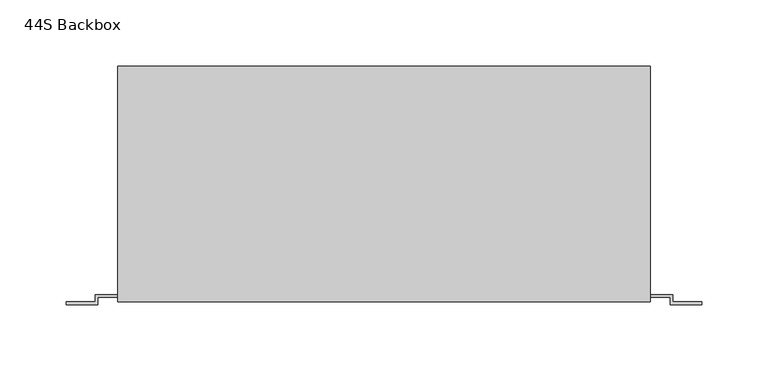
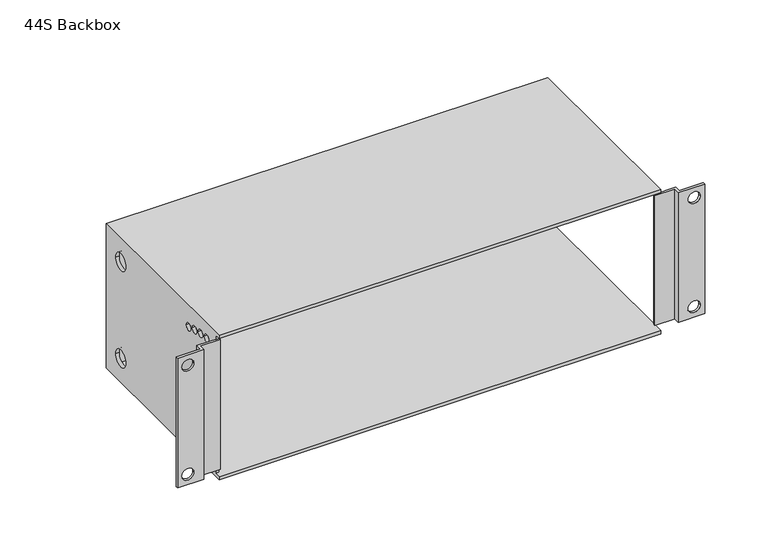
"""IFC4 building model written with IfcOpenShell, lengths in millimetres: proxy geometry, d&b xS-Series 44S Backbox : 44S Backbox."""

from ifc_helpers import new_model, si_unit, frame, origin, place, context, project, spatial, polyline, circle_curve, source, transform, mapped, element, save
from ifc_brep_helpers import plane_surface, revolved_surface, advanced_brep


def proxy_44s_backbox_51589d41(model_context):
    return source(origin(), model_context, "Body", "AdvancedBrep", [
        advanced_brep(
        [(201.0, -90.5, 69.5), (201.0, -90.5, 66.5), (201.0, 84.5, 66.5), (201.0, 84.5, -66.5), (201.0, -90.5, -66.5), (201.0, -90.5, -69.5), (201.0, 87.5, -69.5), (201.0, 87.5, 69.5), (-201.0, -90.5, 69.5), (-201.0, 87.5, 69.5), (-201.0, 87.5, -69.5), (-201.0, -90.5, -69.5), (-201.0, -90.5, -66.5), (-201.0, -85.0, -66.5), (-201.0, -85.0, 66.5), (-201.0, -90.5, 66.5), (-201.0, 56.5, 46.5), (-201.0, 72.5, 46.5), (-201.0, 56.5, -46.5), (-201.0, 72.5, -46.5), (-201.0, -46.0357641, 48.8058809), (-201.0, -39.0357641, 48.8058809), (-201.0, -55.271086, 51.7177667), (-201.0, -48.271086, 51.7177667), (-201.0, -64.7250523, 53.8136606), (-201.0, -57.7250523, 53.8136606), (-201.0, -74.3257126, 55.0776115), (-201.0, -67.3257126, 55.0776115), (-201.0, -84.0, -55.5), (-201.0, -77.0, -55.5), (-201.0, -74.3257126, -55.0776115), (-201.0, -67.3257126, -55.0776115), (-201.0, -64.7250523, -53.8136606), (-201.0, -57.7250523, -53.8136606), (-201.0, -55.271086, -51.7177667), (-201.0, -48.271086, -51.7177667), (-201.0, -46.0357641, -48.8058809), (-201.0, -39.0357641, -48.8058809), (-198.0, -85.0, 66.5), (-198.0, 84.5, 66.5), (-198.0, 84.5, -66.5), (-198.0, -85.0, -66.5), (-198.0, 56.5, 46.5), (-198.0, 72.5, 46.5), (-198.0, 56.5, -46.5), (-198.0, 72.5, -46.5), (-198.0, -46.0357641, 48.8058809), (-198.0, -39.0357641, 48.8058809), (-198.0, -55.271086, 51.7177667), (-198.0, -48.271086, 51.7177667), (-198.0, -64.7250523, 53.8136606), (-198.0, -57.7250523, 53.8136606), (-198.0, -74.3257126, 55.0776115), (-198.0, -67.3257126, 55.0776115), (-198.0, -84.0, -55.5), (-198.0, -77.0, -55.5), (-198.0, -74.3257126, -55.0776115), (-198.0, -67.3257126, -55.0776115), (-198.0, -64.7250523, -53.8136606), (-198.0, -57.7250523, -53.8136606), (-198.0, -55.271086, -51.7177667), (-198.0, -48.271086, -51.7177667), (-198.0, -46.0357641, -48.8058809), (-198.0, -39.0357641, -48.8058809)],
        [
            (0, 1),
            (1, 2),
            (2, 3),
            (3, 4),
            (4, 5),
            (5, 6),
            (6, 7),
            (7, 0),
            (8, 9),
            (9, 10),
            (10, 11),
            (11, 12),
            (12, 13),
            (13, 14),
            (14, 15),
            (15, 8),
            (16, 17, circle_curve(frame((-201.0, 64.5, 46.5), z_axis=(1.0, 0.0, 0.0), x_axis=(0.0, 1.0, 0.0)), 8.0)),
            (17, 16, circle_curve(frame((-201.0, 64.5, 46.5), z_axis=(1.0, 0.0, 0.0), x_axis=(0.0, 1.0, 0.0)), 8.0)),
            (18, 19, circle_curve(frame((-201.0, 64.5, -46.5), z_axis=(1.0, 0.0, 0.0), x_axis=(0.0, 1.0, 0.0)), 8.0)),
            (19, 18, circle_curve(frame((-201.0, 64.5, -46.5), z_axis=(1.0, 0.0, 0.0), x_axis=(0.0, 1.0, 0.0)), 8.0)),
            (20, 21, circle_curve(frame((-201.0, -42.5357641, 48.8058809), z_axis=(1.0, 0.0, 0.0), x_axis=(0.0, 1.0, 0.0)), 3.5)),
            (21, 20, circle_curve(frame((-201.0, -42.5357641, 48.8058809), z_axis=(1.0, 0.0, 0.0), x_axis=(0.0, 1.0, 0.0)), 3.5)),
            (22, 23, circle_curve(frame((-201.0, -51.771086, 51.7177667), z_axis=(1.0, 0.0, 0.0), x_axis=(0.0, 1.0, 0.0)), 3.5)),
            (23, 22, circle_curve(frame((-201.0, -51.771086, 51.7177667), z_axis=(1.0, 0.0, 0.0), x_axis=(0.0, 1.0, 0.0)), 3.5)),
            (24, 25, circle_curve(frame((-201.0, -61.2250523, 53.8136606), z_axis=(1.0, 0.0, 0.0), x_axis=(0.0, 1.0, 0.0)), 3.5)),
            (25, 24, circle_curve(frame((-201.0, -61.2250523, 53.8136606), z_axis=(1.0, 0.0, 0.0), x_axis=(0.0, 1.0, 0.0)), 3.5)),
            (26, 27, circle_curve(frame((-201.0, -70.8257126, 55.0776115), z_axis=(1.0, 0.0, 0.0), x_axis=(0.0, 1.0, 0.0)), 3.5)),
            (27, 26, circle_curve(frame((-201.0, -70.8257126, 55.0776115), z_axis=(1.0, 0.0, 0.0), x_axis=(0.0, 1.0, 0.0)), 3.5)),
            (28, 29, circle_curve(frame((-201.0, -80.5, -55.5), z_axis=(1.0, 0.0, 0.0), x_axis=(0.0, 1.0, 0.0)), 3.5)),
            (29, 28, circle_curve(frame((-201.0, -80.5, -55.5), z_axis=(1.0, 0.0, 0.0), x_axis=(0.0, 1.0, 0.0)), 3.5)),
            (30, 31, circle_curve(frame((-201.0, -70.8257126, -55.0776115), z_axis=(1.0, 0.0, 0.0), x_axis=(0.0, 1.0, 0.0)), 3.5)),
            (31, 30, circle_curve(frame((-201.0, -70.8257126, -55.0776115), z_axis=(1.0, 0.0, 0.0), x_axis=(0.0, 1.0, 0.0)), 3.5)),
            (32, 33, circle_curve(frame((-201.0, -61.2250523, -53.8136606), z_axis=(1.0, 0.0, 0.0), x_axis=(0.0, 1.0, 0.0)), 3.5)),
            (33, 32, circle_curve(frame((-201.0, -61.2250523, -53.8136606), z_axis=(1.0, 0.0, 0.0), x_axis=(0.0, 1.0, 0.0)), 3.5)),
            (34, 35, circle_curve(frame((-201.0, -51.771086, -51.7177667), z_axis=(1.0, 0.0, 0.0), x_axis=(0.0, 1.0, 0.0)), 3.5)),
            (35, 34, circle_curve(frame((-201.0, -51.771086, -51.7177667), z_axis=(1.0, 0.0, 0.0), x_axis=(0.0, 1.0, 0.0)), 3.5)),
            (36, 37, circle_curve(frame((-201.0, -42.5357641, -48.8058809), z_axis=(1.0, 0.0, 0.0), x_axis=(0.0, 1.0, 0.0)), 3.5)),
            (37, 36, circle_curve(frame((-201.0, -42.5357641, -48.8058809), z_axis=(1.0, 0.0, 0.0), x_axis=(0.0, 1.0, 0.0)), 3.5)),
            (0, 8),
            (15, 1),
            (14, 38),
            (38, 39),
            (39, 2),
            (39, 40),
            (40, 3),
            (40, 41),
            (41, 13),
            (12, 4),
            (11, 5),
            (10, 6),
            (9, 7),
            (38, 41),
            (42, 43, circle_curve(frame((-198.0, 64.5, 46.5), z_axis=(-1.0, 0.0, 0.0), x_axis=(0.0, 1.0, 0.0)), 8.0)),
            (43, 42, circle_curve(frame((-198.0, 64.5, 46.5), z_axis=(-1.0, 0.0, 0.0), x_axis=(0.0, 1.0, 0.0)), 8.0)),
            (44, 45, circle_curve(frame((-198.0, 64.5, -46.5), z_axis=(-1.0, 0.0, 0.0), x_axis=(0.0, 1.0, 0.0)), 8.0)),
            (45, 44, circle_curve(frame((-198.0, 64.5, -46.5), z_axis=(-1.0, 0.0, 0.0), x_axis=(0.0, 1.0, 0.0)), 8.0)),
            (46, 47, circle_curve(frame((-198.0, -42.5357641, 48.8058809), z_axis=(-1.0, 0.0, 0.0), x_axis=(0.0, 1.0, 0.0)), 3.5)),
            (47, 46, circle_curve(frame((-198.0, -42.5357641, 48.8058809), z_axis=(-1.0, 0.0, 0.0), x_axis=(0.0, 1.0, 0.0)), 3.5)),
            (48, 49, circle_curve(frame((-198.0, -51.771086, 51.7177667), z_axis=(-1.0, 0.0, 0.0), x_axis=(0.0, 1.0, 0.0)), 3.5)),
            (49, 48, circle_curve(frame((-198.0, -51.771086, 51.7177667), z_axis=(-1.0, 0.0, 0.0), x_axis=(0.0, 1.0, 0.0)), 3.5)),
            (50, 51, circle_curve(frame((-198.0, -61.2250523, 53.8136606), z_axis=(-1.0, 0.0, 0.0), x_axis=(0.0, 1.0, 0.0)), 3.5)),
            (51, 50, circle_curve(frame((-198.0, -61.2250523, 53.8136606), z_axis=(-1.0, 0.0, 0.0), x_axis=(0.0, 1.0, 0.0)), 3.5)),
            (52, 53, circle_curve(frame((-198.0, -70.8257126, 55.0776115), z_axis=(-1.0, 0.0, 0.0), x_axis=(0.0, 1.0, 0.0)), 3.5)),
            (53, 52, circle_curve(frame((-198.0, -70.8257126, 55.0776115), z_axis=(-1.0, 0.0, 0.0), x_axis=(0.0, 1.0, 0.0)), 3.5)),
            (54, 55, circle_curve(frame((-198.0, -80.5, -55.5), z_axis=(-1.0, 0.0, 0.0), x_axis=(0.0, 1.0, 0.0)), 3.5)),
            (55, 54, circle_curve(frame((-198.0, -80.5, -55.5), z_axis=(-1.0, 0.0, 0.0), x_axis=(0.0, 1.0, 0.0)), 3.5)),
            (56, 57, circle_curve(frame((-198.0, -70.8257126, -55.0776115), z_axis=(-1.0, 0.0, 0.0), x_axis=(0.0, 1.0, 0.0)), 3.5)),
            (57, 56, circle_curve(frame((-198.0, -70.8257126, -55.0776115), z_axis=(-1.0, 0.0, 0.0), x_axis=(0.0, 1.0, 0.0)), 3.5)),
            (58, 59, circle_curve(frame((-198.0, -61.2250523, -53.8136606), z_axis=(-1.0, 0.0, 0.0), x_axis=(0.0, 1.0, 0.0)), 3.5)),
            (59, 58, circle_curve(frame((-198.0, -61.2250523, -53.8136606), z_axis=(-1.0, 0.0, 0.0), x_axis=(0.0, 1.0, 0.0)), 3.5)),
            (60, 61, circle_curve(frame((-198.0, -51.771086, -51.7177667), z_axis=(-1.0, 0.0, 0.0), x_axis=(0.0, 1.0, 0.0)), 3.5)),
            (61, 60, circle_curve(frame((-198.0, -51.771086, -51.7177667), z_axis=(-1.0, 0.0, 0.0), x_axis=(0.0, 1.0, 0.0)), 3.5)),
            (62, 63, circle_curve(frame((-198.0, -42.5357641, -48.8058809), z_axis=(-1.0, 0.0, 0.0), x_axis=(0.0, 1.0, 0.0)), 3.5)),
            (63, 62, circle_curve(frame((-198.0, -42.5357641, -48.8058809), z_axis=(-1.0, 0.0, 0.0), x_axis=(0.0, 1.0, 0.0)), 3.5)),
            (42, 16),
            (17, 43),
            (44, 18),
            (19, 45),
            (46, 20),
            (21, 47),
            (48, 22),
            (23, 49),
            (50, 24),
            (25, 51),
            (52, 26),
            (27, 53),
            (54, 28),
            (29, 55),
            (56, 30),
            (31, 57),
            (58, 32),
            (33, 59),
            (60, 34),
            (35, 61),
            (62, 36),
            (37, 63),
        ],
        [
            plane_surface(frame((201.0, -90.5, -374.3), z_axis=(1.0, 0.0, 0.0), x_axis=(0.0, 0.0, -1.0))),
            plane_surface(frame((-201.0, -90.5, -374.3), z_axis=(-1.0, 0.0, 0.0), x_axis=(0.0, 0.0, 1.0))),
            plane_surface(frame((201.0, -90.5, 69.5), z_axis=(0.0, -1.0, 0.0), x_axis=(-1.0, 0.0, 0.0))),
            plane_surface(frame((201.0, -90.5, 66.5), z_axis=(0.0, 0.0, -1.0), x_axis=(-1.0, 0.0, 0.0))),
            plane_surface(frame((201.0, 84.5, 66.5), z_axis=(0.0, -1.0, 0.0), x_axis=(-1.0, 0.0, 0.0))),
            plane_surface(frame((201.0, 84.5, -66.5), z_axis=(0.0, 0.0, 1.0), x_axis=(-1.0, 0.0, 0.0))),
            plane_surface(frame((201.0, -90.5, -66.5), z_axis=(0.0, -1.0, 0.0), x_axis=(-1.0, 0.0, 0.0))),
            plane_surface(frame((201.0, -90.5, -69.5), z_axis=(0.0, 0.0, -1.0), x_axis=(-1.0, 0.0, 0.0))),
            plane_surface(frame((201.0, 87.5, -69.5), z_axis=(0.0, 1.0, 0.0), x_axis=(-1.0, 0.0, 0.0))),
            plane_surface(frame((201.0, 87.5, 69.5), z_axis=(0.0, 0.0, 1.0), x_axis=(-1.0, 0.0, 0.0))),
            plane_surface(frame((-198.0, -85.0, 69.5), z_axis=(1.0, 0.0, 0.0), x_axis=(0.0, 0.0, -1.0))),
            plane_surface(frame((-198.0, -85.0, 66.5), z_axis=(0.0, -1.0, 0.0), x_axis=(-1.0, 0.0, 0.0))),
            revolved_surface(polyline([(-201.0, 72.5, 46.5), (-198.0, 72.5, 46.5)]), (-201.0, 64.5, 46.5), (-1.0, 0.0, 0.0)),
            revolved_surface(polyline([(-201.0, 72.5, -46.5), (-198.0, 72.5, -46.5)]), (-201.0, 64.5, -46.5), (-1.0, 0.0, 0.0)),
            revolved_surface(polyline([(-201.0, -39.0357641, 48.8058809), (-198.0, -39.0357641, 48.8058809)]), (-201.0, -42.5357641, 48.8058809), (-1.0, 0.0, 0.0)),
            revolved_surface(polyline([(-201.0, -48.271086, 51.7177667), (-198.0, -48.271086, 51.7177667)]), (-201.0, -51.771086, 51.7177667), (-1.0, 0.0, 0.0)),
            revolved_surface(polyline([(-201.0, -57.7250523, 53.8136606), (-198.0, -57.7250523, 53.8136606)]), (-201.0, -61.2250523, 53.8136606), (-1.0, 0.0, 0.0)),
            revolved_surface(polyline([(-201.0, -67.3257126, 55.0776115), (-198.0, -67.3257126, 55.0776115)]), (-201.0, -70.8257126, 55.0776115), (-1.0, 0.0, 0.0)),
            revolved_surface(polyline([(-201.0, -77.0, -55.5), (-198.0, -77.0, -55.5)]), (-201.0, -80.5, -55.5), (-1.0, 0.0, 0.0)),
            revolved_surface(polyline([(-201.0, -67.3257126, -55.0776115), (-198.0, -67.3257126, -55.0776115)]), (-201.0, -70.8257126, -55.0776115), (-1.0, 0.0, 0.0)),
            revolved_surface(polyline([(-201.0, -57.7250523, -53.8136606), (-198.0, -57.7250523, -53.8136606)]), (-201.0, -61.2250523, -53.8136606), (-1.0, 0.0, 0.0)),
            revolved_surface(polyline([(-201.0, -48.271086, -51.7177667), (-198.0, -48.271086, -51.7177667)]), (-201.0, -51.771086, -51.7177667), (-1.0, 0.0, 0.0)),
            revolved_surface(polyline([(-201.0, -39.0357641, -48.8058809), (-198.0, -39.0357641, -48.8058809)]), (-201.0, -42.5357641, -48.8058809), (-1.0, 0.0, 0.0)),
        ],
        [
            (0, [[1, 2, 3, 4, 5, 6, 7, 8]]),
            (1, [[9, 10, 11, 12, 13, 14, 15, 16], [17, 18], [19, 20], [21, 22], [23, 24], [25, 26], [27, 28], [29, 30], [31, 32], [33, 34], [35, 36], [37, 38]]),
            (2, [[-1, 39, -16, 40]]),
            (3, [[-2, -40, -15, 41, 42, 43]]),
            (4, [[-3, -43, 44, 45]]),
            (5, [[-4, -45, 46, 47, -13, 48]]),
            (6, [[-5, -48, -12, 49]]),
            (7, [[-6, -49, -11, 50]]),
            (8, [[-7, -50, -10, 51]]),
            (9, [[-8, -51, -9, -39]]),
            (10, [[52, -46, -44, -42], [53, 54], [55, 56], [57, 58], [59, 60], [61, 62], [63, 64], [65, 66], [67, 68], [69, 70], [71, 72], [73, 74]]),
            (11, [[-52, -41, -14, -47]]),
            (12, [[-53, 75, -18, 76]]),
            (12, [[-54, -76, -17, -75]]),
            (13, [[-55, 77, -20, 78]]),
            (13, [[-56, -78, -19, -77]]),
            (14, [[-57, 79, -22, 80]]),
            (14, [[-58, -80, -21, -79]]),
            (15, [[-59, 81, -24, 82]]),
            (15, [[-60, -82, -23, -81]]),
            (16, [[-61, 83, -26, 84]]),
            (16, [[-62, -84, -25, -83]]),
            (17, [[-63, 85, -28, 86]]),
            (17, [[-64, -86, -27, -85]]),
            (18, [[-65, 87, -30, 88]]),
            (18, [[-66, -88, -29, -87]]),
            (19, [[-67, 89, -32, 90]]),
            (19, [[-68, -90, -31, -89]]),
            (20, [[-69, 91, -34, 92]]),
            (20, [[-70, -92, -33, -91]]),
            (21, [[-71, 93, -36, 94]]),
            (21, [[-72, -94, -35, -93]]),
            (22, [[-73, 95, -38, 96]]),
            (22, [[-74, -96, -37, -95]]),
        ],
    ),
        advanced_brep(
        [(216.0, -92.5, 62.5), (240.0, -92.5, 62.5), (240.0, -90.5, 62.5), (218.0, -90.5, 62.5), (218.0, -85.0, 62.5), (198.0, -85.0, 62.5), (198.0, -87.0, 62.5), (216.0, -87.0, 62.5), (216.0, -92.5, -62.5), (216.0, -87.0, -62.5), (198.0, -87.0, -62.5), (198.0, -85.0, -62.5), (218.0, -85.0, -62.5), (218.0, -90.5, -62.5), (240.0, -90.5, -62.5), (240.0, -92.5, -62.5), (236.0, -90.5, 52.5), (225.0, -90.5, 52.5), (236.0, -90.5, -52.5), (225.0, -90.5, -52.5), (225.0, -92.5, 52.5), (236.0, -92.5, 52.5), (225.0, -92.5, -52.5), (236.0, -92.5, -52.5)],
        [
            (0, 1),
            (1, 2),
            (2, 3),
            (3, 4),
            (4, 5),
            (5, 6),
            (6, 7),
            (7, 0),
            (8, 9),
            (9, 10),
            (10, 11),
            (11, 12),
            (12, 13),
            (13, 14),
            (14, 15),
            (15, 8),
            (7, 9),
            (8, 0),
            (6, 10),
            (5, 11),
            (4, 12),
            (3, 13),
            (2, 14),
            (16, 17, circle_curve(frame((230.5, -90.5, 52.5), z_axis=(0.0, -1.0, 0.0), x_axis=(-1.0, 0.0, 0.0)), 5.5)),
            (17, 16, circle_curve(frame((230.5, -90.5, 52.5), z_axis=(0.0, -1.0, 0.0), x_axis=(-1.0, 0.0, 0.0)), 5.5)),
            (18, 19, circle_curve(frame((230.5, -90.5, -52.5), z_axis=(0.0, -1.0, 0.0), x_axis=(-1.0, 0.0, 0.0)), 5.5)),
            (19, 18, circle_curve(frame((230.5, -90.5, -52.5), z_axis=(0.0, -1.0, 0.0), x_axis=(-1.0, 0.0, 0.0)), 5.5)),
            (1, 15),
            (20, 21, circle_curve(frame((230.5, -92.5, 52.5), z_axis=(0.0, 1.0, 0.0), x_axis=(-1.0, 0.0, 0.0)), 5.5)),
            (21, 20, circle_curve(frame((230.5, -92.5, 52.5), z_axis=(0.0, 1.0, 0.0), x_axis=(-1.0, 0.0, 0.0)), 5.5)),
            (22, 23, circle_curve(frame((230.5, -92.5, -52.5), z_axis=(0.0, 1.0, 0.0), x_axis=(-1.0, 0.0, 0.0)), 5.5)),
            (23, 22, circle_curve(frame((230.5, -92.5, -52.5), z_axis=(0.0, 1.0, 0.0), x_axis=(-1.0, 0.0, 0.0)), 5.5)),
            (20, 17),
            (16, 21),
            (22, 19),
            (18, 23),
        ],
        [
            plane_surface(frame((240.0, -92.5, 62.5), z_axis=(0.0, 0.0, 1.0), x_axis=(1.0, 0.0, 0.0))),
            plane_surface(frame((240.0, -92.5, -62.5), z_axis=(0.0, 0.0, -1.0), x_axis=(-1.0, 0.0, 0.0))),
            plane_surface(frame((216.0, -87.0, 62.5), z_axis=(-1.0, 0.0, 0.0), x_axis=(0.0, 0.0, -1.0))),
            plane_surface(frame((198.0, -87.0, 62.5), z_axis=(0.0, -1.0, 0.0), x_axis=(0.0, 0.0, -1.0))),
            plane_surface(frame((198.0, -85.0, 62.5), z_axis=(-1.0, 0.0, 0.0), x_axis=(0.0, 0.0, -1.0))),
            plane_surface(frame((218.0, -85.0, 62.5), z_axis=(0.0, 1.0, 0.0), x_axis=(0.0, 0.0, -1.0))),
            plane_surface(frame((218.0, -90.5, 62.5), z_axis=(1.0, 0.0, 0.0), x_axis=(0.0, 0.0, -1.0))),
            plane_surface(frame((240.0, -90.5, 62.5), z_axis=(0.0, 1.0, 0.0), x_axis=(0.0, 0.0, -1.0))),
            plane_surface(frame((240.0, -92.5, 62.5), z_axis=(1.0, 0.0, 0.0), x_axis=(0.0, 0.0, -1.0))),
            plane_surface(frame((216.0, -92.5, 62.5), z_axis=(0.0, -1.0, 0.0), x_axis=(0.0, 0.0, -1.0))),
            revolved_surface(polyline([(225.0, -92.5, 52.5), (225.0, -90.5, 52.5)]), (230.5, -90.5, 52.5), (0.0, -1.0, 0.0)),
            revolved_surface(polyline([(225.0, -92.5, -52.5), (225.0, -90.5, -52.5)]), (230.5, -90.5, -52.5), (0.0, -1.0, 0.0)),
        ],
        [
            (0, [[1, 2, 3, 4, 5, 6, 7, 8]]),
            (1, [[9, 10, 11, 12, 13, 14, 15, 16]]),
            (2, [[-8, 17, -9, 18]]),
            (3, [[-7, 19, -10, -17]]),
            (4, [[-6, 20, -11, -19]]),
            (5, [[-5, 21, -12, -20]]),
            (6, [[-4, 22, -13, -21]]),
            (7, [[-3, 23, -14, -22], [24, 25], [26, 27]]),
            (8, [[-2, 28, -15, -23]]),
            (9, [[-1, -18, -16, -28], [29, 30], [31, 32]]),
            (10, [[33, -24, 34, -29]]),
            (10, [[-33, -30, -34, -25]]),
            (11, [[35, -26, 36, -31]]),
            (11, [[-35, -32, -36, -27]]),
        ],
    ),
        advanced_brep(
        [(-216.0, -92.5, 62.5), (-216.0, -87.0, 62.5), (-198.0, -87.0, 62.5), (-198.0, -85.0, 62.5), (-218.0, -85.0, 62.5), (-218.0, -90.5, 62.5), (-240.0, -90.5, 62.5), (-240.0, -92.5, 62.5), (-216.0, -92.5, -62.5), (-240.0, -92.5, -62.5), (-240.0, -90.5, -62.5), (-218.0, -90.5, -62.5), (-218.0, -85.0, -62.5), (-198.0, -85.0, -62.5), (-198.0, -87.0, -62.5), (-216.0, -87.0, -62.5), (-236.0, -90.5, 52.5), (-225.0, -90.5, 52.5), (-236.0, -90.5, -52.5), (-225.0, -90.5, -52.5), (-225.0, -92.5, 52.5), (-236.0, -92.5, 52.5), (-225.0, -92.5, -52.5), (-236.0, -92.5, -52.5)],
        [
            (0, 1),
            (1, 2),
            (2, 3),
            (3, 4),
            (4, 5),
            (5, 6),
            (6, 7),
            (7, 0),
            (8, 9),
            (9, 10),
            (10, 11),
            (11, 12),
            (12, 13),
            (13, 14),
            (14, 15),
            (15, 8),
            (0, 8),
            (15, 1),
            (14, 2),
            (13, 3),
            (12, 4),
            (11, 5),
            (10, 6),
            (16, 17, circle_curve(frame((-230.5, -90.5, 52.5), z_axis=(0.0, -1.0, 0.0), x_axis=(1.0, 0.0, 0.0)), 5.5)),
            (17, 16, circle_curve(frame((-230.5, -90.5, 52.5), z_axis=(0.0, -1.0, 0.0), x_axis=(1.0, 0.0, 0.0)), 5.5)),
            (18, 19, circle_curve(frame((-230.5, -90.5, -52.5), z_axis=(0.0, -1.0, 0.0), x_axis=(1.0, 0.0, 0.0)), 5.5)),
            (19, 18, circle_curve(frame((-230.5, -90.5, -52.5), z_axis=(0.0, -1.0, 0.0), x_axis=(1.0, 0.0, 0.0)), 5.5)),
            (9, 7),
            (20, 21, circle_curve(frame((-230.5, -92.5, 52.5), z_axis=(0.0, 1.0, 0.0), x_axis=(1.0, 0.0, 0.0)), 5.5)),
            (21, 20, circle_curve(frame((-230.5, -92.5, 52.5), z_axis=(0.0, 1.0, 0.0), x_axis=(1.0, 0.0, 0.0)), 5.5)),
            (22, 23, circle_curve(frame((-230.5, -92.5, -52.5), z_axis=(0.0, 1.0, 0.0), x_axis=(1.0, 0.0, 0.0)), 5.5)),
            (23, 22, circle_curve(frame((-230.5, -92.5, -52.5), z_axis=(0.0, 1.0, 0.0), x_axis=(1.0, 0.0, 0.0)), 5.5)),
            (20, 17),
            (16, 21),
            (22, 19),
            (18, 23),
        ],
        [
            plane_surface(frame((-216.0, -90.0, 62.5), z_axis=(0.0, 0.0, 1.0), x_axis=(0.0, 1.0, 0.0))),
            plane_surface(frame((-216.0, -90.0, -62.5), z_axis=(0.0, 0.0, -1.0), x_axis=(0.0, -1.0, 0.0))),
            plane_surface(frame((-216.0, -92.5, 62.5), z_axis=(1.0, 0.0, 0.0), x_axis=(0.0, 0.0, -1.0))),
            plane_surface(frame((-216.0, -87.0, 62.5), z_axis=(0.0, -1.0, 0.0), x_axis=(0.0, 0.0, -1.0))),
            plane_surface(frame((-198.0, -87.0, 62.5), z_axis=(1.0, 0.0, 0.0), x_axis=(0.0, 0.0, -1.0))),
            plane_surface(frame((-198.0, -85.0, 62.5), z_axis=(0.0, 1.0, 0.0), x_axis=(0.0, 0.0, -1.0))),
            plane_surface(frame((-218.0, -85.0, 62.5), z_axis=(-1.0, 0.0, 0.0), x_axis=(0.0, 0.0, -1.0))),
            plane_surface(frame((-218.0, -90.5, 62.5), z_axis=(0.0, 1.0, 0.0), x_axis=(0.0, 0.0, -1.0))),
            plane_surface(frame((-240.0, -90.5, 62.5), z_axis=(-1.0, 0.0, 0.0), x_axis=(0.0, 0.0, -1.0))),
            plane_surface(frame((-240.0, -92.5, 62.5), z_axis=(0.0, -1.0, 0.0), x_axis=(0.0, 0.0, -1.0))),
            revolved_surface(polyline([(-225.0, -92.5, 52.5), (-225.0, -90.5, 52.5)]), (-230.5, -90.5, 52.5), (0.0, -1.0, 0.0)),
            revolved_surface(polyline([(-225.0, -92.5, -52.5), (-225.0, -90.5, -52.5)]), (-230.5, -90.5, -52.5), (0.0, -1.0, 0.0)),
        ],
        [
            (0, [[1, 2, 3, 4, 5, 6, 7, 8]]),
            (1, [[9, 10, 11, 12, 13, 14, 15, 16]]),
            (2, [[-1, 17, -16, 18]]),
            (3, [[-2, -18, -15, 19]]),
            (4, [[-3, -19, -14, 20]]),
            (5, [[-4, -20, -13, 21]]),
            (6, [[-5, -21, -12, 22]]),
            (7, [[-6, -22, -11, 23], [24, 25], [26, 27]]),
            (8, [[-7, -23, -10, 28]]),
            (9, [[-8, -28, -9, -17], [29, 30], [31, 32]]),
            (10, [[33, -24, 34, -29]]),
            (10, [[-33, -30, -34, -25]]),
            (11, [[35, -26, 36, -31]]),
            (11, [[-35, -32, -36, -27]]),
        ],
    ),
    ])


if __name__ == "__main__":
    model = new_model("IFC4")
    model_context = context("Model", 3, world=origin())
    ifc_project = project(units=[si_unit("LENGTHUNIT", "METRE", prefix="MILLI")], contexts=[model_context])
    site = spatial("IfcSite", under=ifc_project)
    building = spatial("IfcBuilding", under=site)
    placement = place(None, origin())
    proxy_44s_backbox_shape = proxy_44s_backbox_51589d41(model_context)
    element("IfcBuildingElementProxy", 1, Name="d&b xS-Series 44S Backbox : 44S Backbox", ObjectType="d&b xS-Series 44S Backbox : 44S Backbox", at=placement, inside=building, context=model_context, shape_type="MappedRepresentation", body=[
        mapped(proxy_44s_backbox_shape, transform((0.0, 0.0, 0.0), x_axis=(1.0, 0.0, 0.0), y_axis=(0.0, 1.0, 0.0), z_axis=(0.0, 0.0, 1.0))),
    ])
    save(model, "model.ifc")
